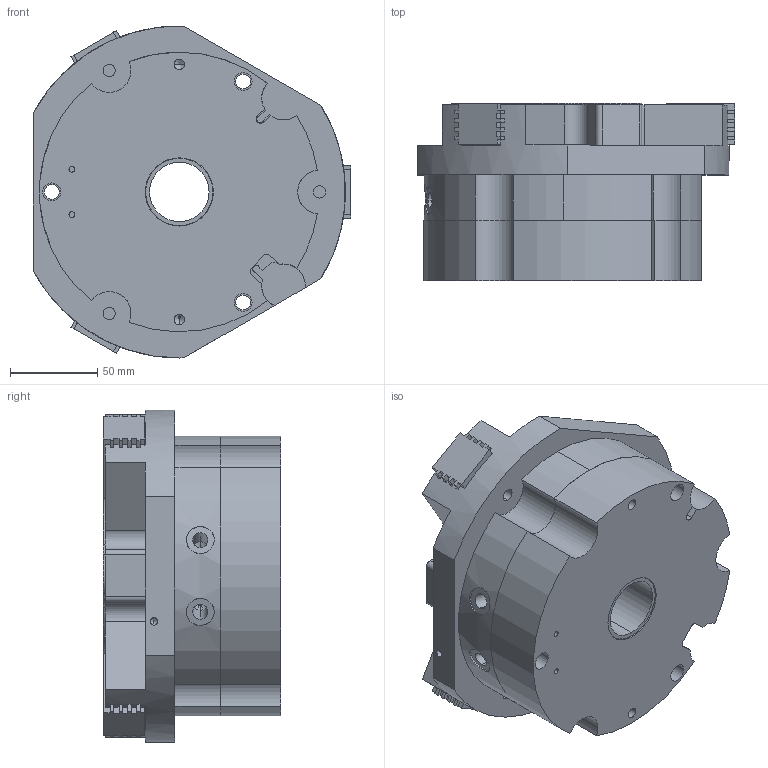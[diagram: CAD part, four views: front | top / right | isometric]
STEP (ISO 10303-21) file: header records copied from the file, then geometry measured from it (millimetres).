
FILE_DESCRIPTION (( 'STEP AP214' ), '1' );
FILE_NAME ('THB-160A-1-IS.STEP', '2021-01-18T02:53:43', ( '' ), ( '' ), 'SwSTEP 2.0', 'SolidWorks 2016', '' );
FILE_SCHEMA (( 'AUTOMOTIVE_DESIGN' ));
Length unit declared in the file: millimetre
Products named in the file (6): THB-160A-1-IS; THB-160A-1-IS-02; THB-160A-1-IS-04; THB-160A-1-IS-05; THB-160A-1-IS-03; THB-160A-1-IS-01
Assembly tree (7 placements, depth 2):
  THB-160A-1-IS
    THB-160A-1-IS-01
    THB-160A-1-IS-02  x3
    THB-160A-1-IS-03
    THB-160A-1-IS-04
    THB-160A-1-IS-05
Bounding box: 181.5 x 101.5 x 189.97 mm (x, y, z)
Volume: 1748767.6 mm3; surface area: 257890.6 mm2
Topology: 7 solids, 7 shells, 553 faces, 1559 edges, 1018 vertices
Faces by surface type: plane 303, cylinder 194, cone 56
Entity records: 14909 total; most frequent: CARTESIAN_POINT 2612, DIRECTION 2591, ORIENTED_EDGE 2406, EDGE_CURVE 1203, AXIS2_PLACEMENT_3D 949, VERTEX_POINT 798, LINE 693, VECTOR 693
